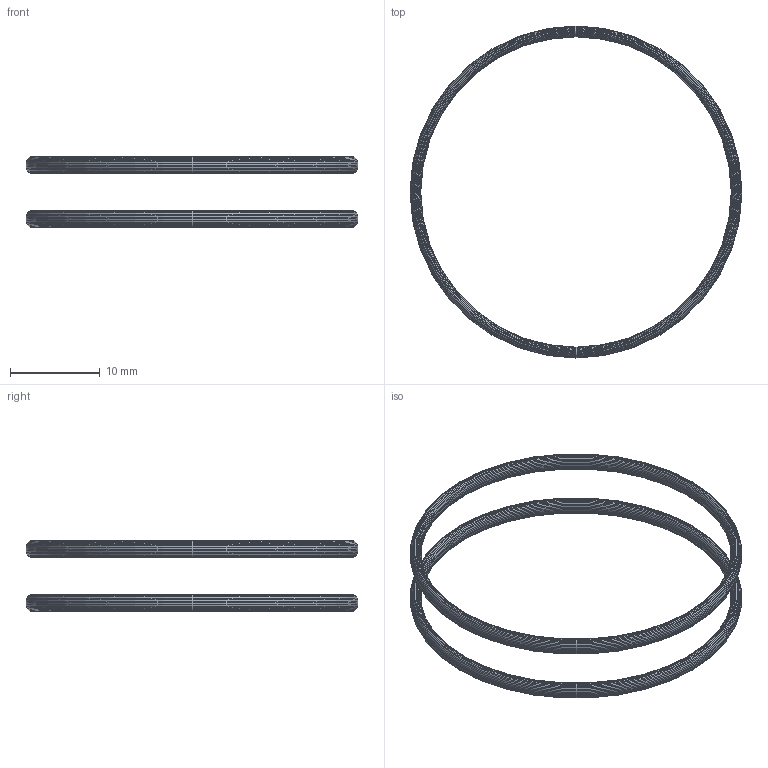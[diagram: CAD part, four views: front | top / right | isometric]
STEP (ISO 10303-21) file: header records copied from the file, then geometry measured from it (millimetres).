
FILE_DESCRIPTION(('Open CASCADE Model'),'2;1');
FILE_NAME('Open CASCADE Shape Model','2026-09-23T04:48:10',('Author'),( 'Open CASCADE'),'Open CASCADE STEP processor 7.9','Open CASCADE 7.9' ,'Unknown');
FILE_SCHEMA(('AUTOMOTIVE_DESIGN { 1 0 10303 214 1 1 1 1 }'));
Length unit declared in the file: millimetre
Products named in the file (3): Open CASCADE STEP translator 7.9 2; Open CASCADE STEP translator 7.9 2.1; Open CASCADE STEP translator 7.9 2.2
Assembly tree (2 placements, depth 2):
  Open CASCADE STEP translator 7.9 2
    Open CASCADE STEP translator 7.9 2.1
    Open CASCADE STEP translator 7.9 2.2
Bounding box: 37 x 37 x 7.88 mm (x, y, z)
Volume: 394.9 mm3; surface area: 1097.9 mm2
Topology: 2 solids, 2 shells, 64 faces, 128 edges, 64 vertices
Faces by surface type: cone 64
Entity records: 3320 total; most frequent: DIRECTION 582, CARTESIAN_POINT 515, LINE 320, VECTOR 320, ORIENTED_EDGE 256, PCURVE 256, DEFINITIONAL_REPRESENTATION 256, AXIS2_PLACEMENT_3D 131
